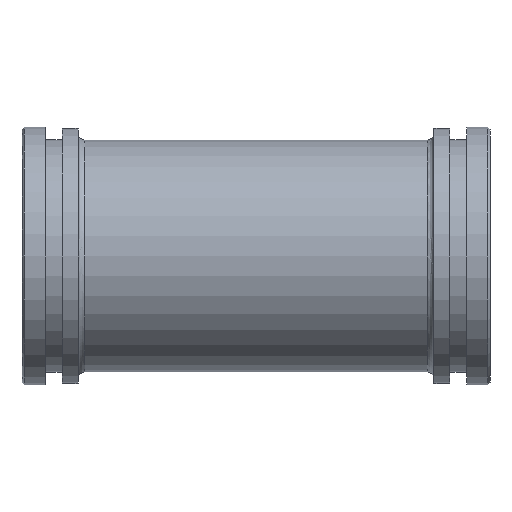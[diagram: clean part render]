
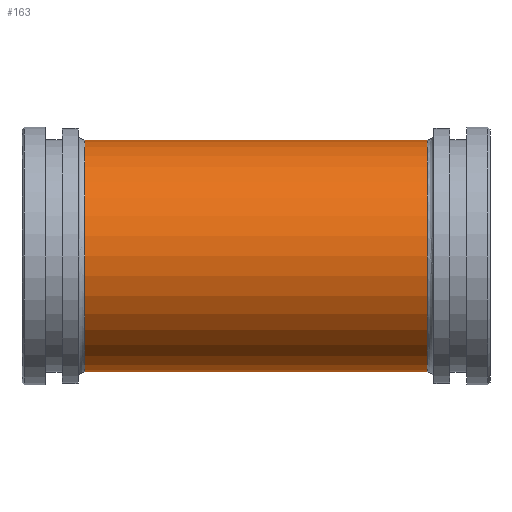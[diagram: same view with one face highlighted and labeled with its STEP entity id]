
A CAD part, front view. The second image highlights one B-rep face of the part: STEP entity #163.
In plain terms, the highlighted cylindrical face has radius 24.75 mm (diameter 49.5 mm), a full revolution.
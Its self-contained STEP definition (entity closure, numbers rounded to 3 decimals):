
#121=CARTESIAN_POINT('',(36.6,24.75,0.0));
#122=VERTEX_POINT('',#121);
#123=CARTESIAN_POINT('',(36.6,0.0,0.0));
#124=DIRECTION('',(1.0,0.0,0.0));
#125=DIRECTION('',(0.0,-1.0,0.0));
#126=AXIS2_PLACEMENT_3D('',#123,#124,#125);
#127=CIRCLE('',#126,24.75);
#128=EDGE_CURVE('',#122,#122,#127,.T.);
#144=CARTESIAN_POINT('',(0.0,0.0,0.0));
#145=DIRECTION('',(1.0,0.0,0.0));
#146=DIRECTION('',(0.0,1.0,0.0));
#147=AXIS2_PLACEMENT_3D('',#144,#145,#146);
#148=CYLINDRICAL_SURFACE('',#147,24.75);
#149=CARTESIAN_POINT('',(-36.6,24.75,0.));
#150=VERTEX_POINT('',#149);
#151=CARTESIAN_POINT('',(-36.6,0.0,0.0));
#152=DIRECTION('',(-1.0,0.0,0.0));
#153=DIRECTION('',(0.0,-1.0,0.0));
#154=AXIS2_PLACEMENT_3D('',#151,#152,#153);
#155=CIRCLE('',#154,24.75);
#156=EDGE_CURVE('',#150,#150,#155,.T.);
#157=ORIENTED_EDGE('',*,*,#156,.F.);
#158=EDGE_LOOP('',(#157));
#159=FACE_OUTER_BOUND('',#158,.T.);
#160=ORIENTED_EDGE('',*,*,#128,.F.);
#161=EDGE_LOOP('',(#160));
#162=FACE_BOUND('',#161,.T.);
#163=ADVANCED_FACE('',(#159,#162),#148,.T.);
